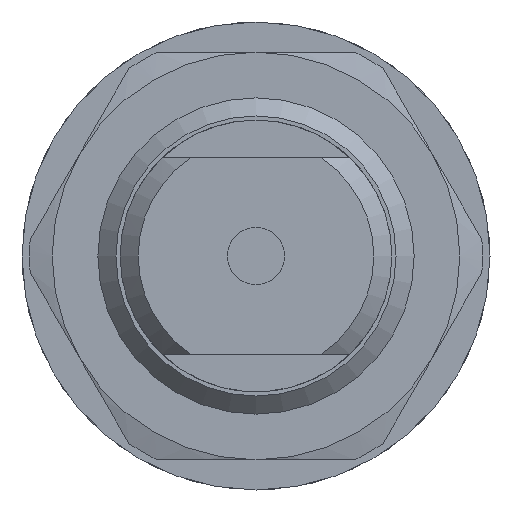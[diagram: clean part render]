
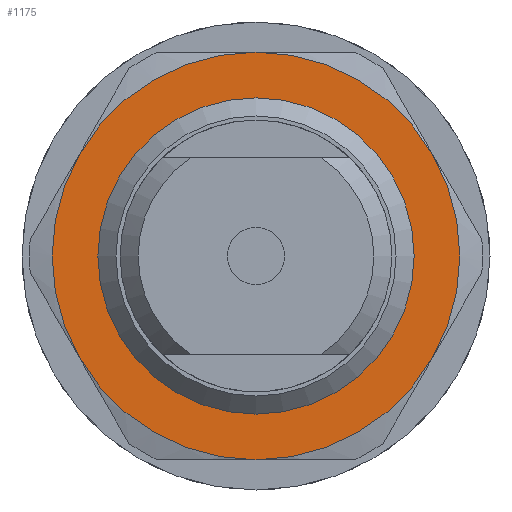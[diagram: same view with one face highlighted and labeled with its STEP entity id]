
A CAD part, front view. The second image highlights one B-rep face of the part: STEP entity #1175.
In plain terms, the highlighted planar face has unit normal (0, -1, 0).
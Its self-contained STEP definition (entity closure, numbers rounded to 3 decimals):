
#1175=ADVANCED_FACE('',(#1415,#1416),#1272,.F.);
#1272=PLANE('',#2981);
#1339=CIRCLE('',#2974,13.5);
#1340=CIRCLE('',#2975,13.5);
#1341=CIRCLE('',#2976,13.5);
#1342=CIRCLE('',#2977,13.5);
#1343=CIRCLE('',#2978,13.5);
#1344=CIRCLE('',#2979,13.5);
#1345=CIRCLE('',#2980,10.475);
#1415=FACE_BOUND('',#1522,.T.);
#1416=FACE_BOUND('',#1523,.T.);
#1522=EDGE_LOOP('',(#1906,#1907,#1908,#1909,#1910,#1911));
#1523=EDGE_LOOP('',(#1912));
#1906=ORIENTED_EDGE('',*,*,#2494,.T.);
#1907=ORIENTED_EDGE('',*,*,#2495,.T.);
#1908=ORIENTED_EDGE('',*,*,#2496,.T.);
#1909=ORIENTED_EDGE('',*,*,#2497,.T.);
#1910=ORIENTED_EDGE('',*,*,#2498,.T.);
#1911=ORIENTED_EDGE('',*,*,#2499,.T.);
#1912=ORIENTED_EDGE('',*,*,#2500,.T.);
#2257=VERTEX_POINT('',#4112);
#2258=VERTEX_POINT('',#4113);
#2259=VERTEX_POINT('',#4115);
#2260=VERTEX_POINT('',#4117);
#2261=VERTEX_POINT('',#4119);
#2262=VERTEX_POINT('',#4121);
#2263=VERTEX_POINT('',#4124);
#2494=EDGE_CURVE('',#2257,#2258,#1339,.T.);
#2495=EDGE_CURVE('',#2258,#2259,#1340,.T.);
#2496=EDGE_CURVE('',#2259,#2260,#1341,.T.);
#2497=EDGE_CURVE('',#2260,#2261,#1342,.T.);
#2498=EDGE_CURVE('',#2261,#2262,#1343,.T.);
#2499=EDGE_CURVE('',#2262,#2257,#1344,.T.);
#2500=EDGE_CURVE('',#2263,#2263,#1345,.T.);
#2974=AXIS2_PLACEMENT_3D('',#4111,#3398,#3399);
#2975=AXIS2_PLACEMENT_3D('',#4114,#3400,#3401);
#2976=AXIS2_PLACEMENT_3D('',#4116,#3402,#3403);
#2977=AXIS2_PLACEMENT_3D('',#4118,#3404,#3405);
#2978=AXIS2_PLACEMENT_3D('',#4120,#3406,#3407);
#2979=AXIS2_PLACEMENT_3D('',#4122,#3408,#3409);
#2980=AXIS2_PLACEMENT_3D('',#4123,#3410,#3411);
#2981=AXIS2_PLACEMENT_3D('',#4125,#3412,#3413);
#3398=DIRECTION('',(0.,-1.,0.));
#3399=DIRECTION('',(0.,0.,-1.));
#3400=DIRECTION('',(0.,-1.,0.));
#3401=DIRECTION('',(0.,0.,-1.));
#3402=DIRECTION('',(0.,-1.,0.));
#3403=DIRECTION('',(0.,0.,-1.));
#3404=DIRECTION('',(0.,-1.,0.));
#3405=DIRECTION('',(0.,0.,-1.));
#3406=DIRECTION('',(0.,-1.,0.));
#3407=DIRECTION('',(0.,0.,-1.));
#3408=DIRECTION('',(0.,-1.,0.));
#3409=DIRECTION('',(0.,0.,-1.));
#3410=DIRECTION('',(0.,1.,0.));
#3411=DIRECTION('',(0.,0.,1.));
#3412=DIRECTION('',(0.,1.,0.));
#3413=DIRECTION('',(0.,0.,1.));
#4111=CARTESIAN_POINT('',(0.,-17.,0.));
#4112=CARTESIAN_POINT('',(0.,-17.,-13.5));
#4113=CARTESIAN_POINT('',(11.691,-17.,-6.75));
#4114=CARTESIAN_POINT('',(0.,-17.,0.));
#4115=CARTESIAN_POINT('',(11.691,-17.,6.75));
#4116=CARTESIAN_POINT('',(0.,-17.,0.));
#4117=CARTESIAN_POINT('',(0.,-17.,13.5));
#4118=CARTESIAN_POINT('',(0.,-17.,0.));
#4119=CARTESIAN_POINT('',(-11.691,-17.,6.75));
#4120=CARTESIAN_POINT('',(0.,-17.,0.));
#4121=CARTESIAN_POINT('',(-11.691,-17.,-6.75));
#4122=CARTESIAN_POINT('',(0.,-17.,0.));
#4123=CARTESIAN_POINT('',(0.,-17.,0.));
#4124=CARTESIAN_POINT('',(0.,-17.,10.475));
#4125=CARTESIAN_POINT('',(13.5,-17.,0.));
